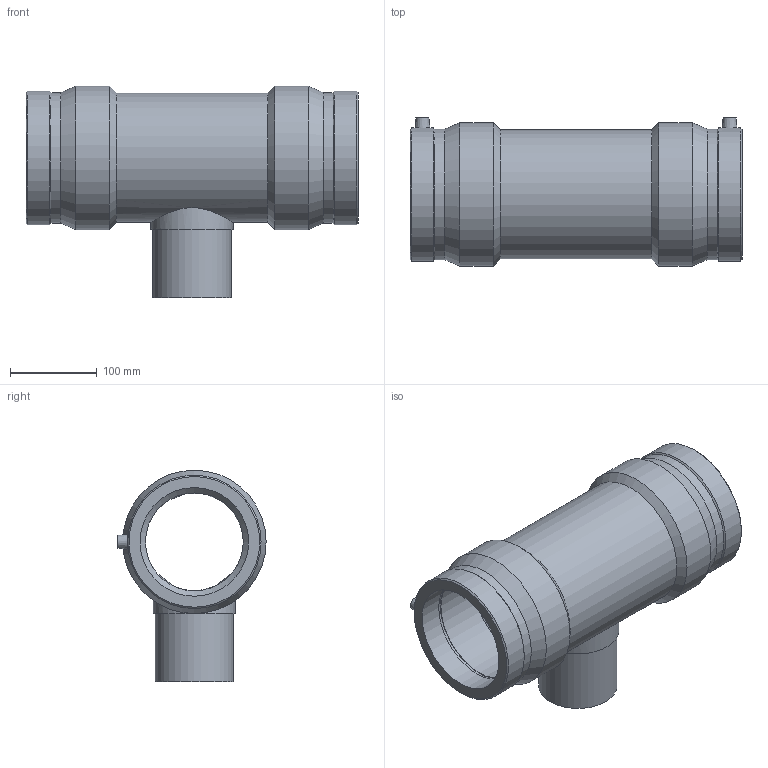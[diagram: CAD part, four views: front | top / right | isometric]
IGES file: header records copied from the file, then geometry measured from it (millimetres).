
Global section: file name: 491404125090.ipt; native system: Autodesk Inventor 2015; preprocessor: unknown; author: KIM; date: 20171106.093852; units: millimetre
Bounding box: 382 x 170.5 x 243.5 mm (x, y, z)
Volume: 3050320.5 mm3; surface area: 391174.2 mm2
Topology: 1 solids, 1 shells, 45 faces, 101 edges, 66 vertices
Faces by surface type: plane 12, revolution 12, cylinder 11, cone 10
Full cylindrical faces by diameter (mm): 4 x2, 90 x1, 94.5 x1, 148.5 x1, 150.381 x2, 153.45 x2, 165 x2
